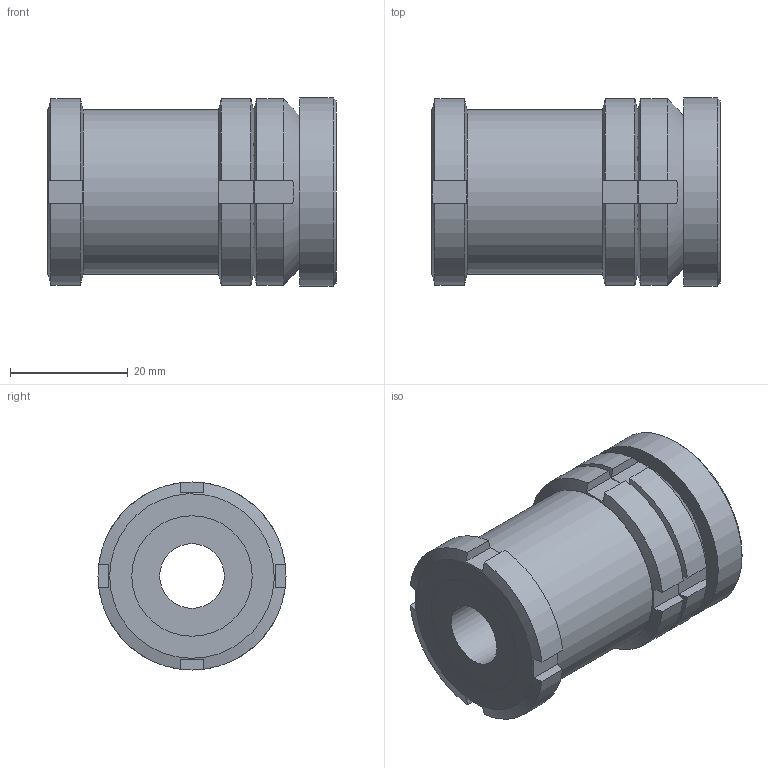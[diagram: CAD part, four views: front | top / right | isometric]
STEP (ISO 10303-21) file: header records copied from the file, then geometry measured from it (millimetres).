
FILE_DESCRIPTION( ( 'STEP AP203' ), '1' );
FILE_NAME( 'C:/Temp/Ganter_Step_05_03_2020/data/3_2/gn350_5/gn350_5_ni/Stainless Steel-Levelling set GN 350.5-32-11-49-NI (0-0).stp', '2020-03-13T05:28:48', ( 'License CC BY-ND 4.0' ), ( 'CADENAS' ), ' ', 'PARTsolutions', ' ' );
FILE_SCHEMA( ( 'CONFIG_CONTROL_DESIGN' ) );
Length unit declared in the file: millimetre
Products named in the file (5): Stainless Steel-Levelling set GN 350.5-32-11-49-NI (0-0); _Levelling set GN 350.5-32-11-49-ST-G; _Levelling set GN 350.5-32-11-49-ST-K; _Levelling set GN 350.5-32-11-49-ST-P(0); _Levelling set GN 350.5-32-11-32-ST-KM
Assembly tree (4 placements, depth 2):
  Stainless Steel-Levelling set GN 350.5-32-11-49-NI (0-0)
    _Levelling set GN 350.5-32-11-49-ST-G
    _Levelling set GN 350.5-32-11-49-ST-K
    _Levelling set GN 350.5-32-11-49-ST-P(0)
    _Levelling set GN 350.5-32-11-32-ST-KM
Bounding box: 49 x 32 x 32 mm (x, y, z)
Volume: 29383.2 mm3; surface area: 15614.6 mm2
Topology: 4 solids, 4 shells, 84 faces, 209 edges, 139 vertices
Faces by surface type: plane 50, cylinder 24, cone 8, sphere 2
Full cylindrical faces by diameter (mm): 11 x1, 15 x1, 16.473 x1, 17.5 x1, 18.917 x2, 20 x2, 20.5 x2, 28 x1, 32 x1
Entity records: 2676 total; most frequent: CARTESIAN_POINT 695, DIRECTION 364, ORIENTED_EDGE 354, EDGE_CURVE 177, AXIS2_PLACEMENT_3D 158, VERTEX_POINT 129, EDGE_LOOP 120, FACE_OUTER_BOUND 98
